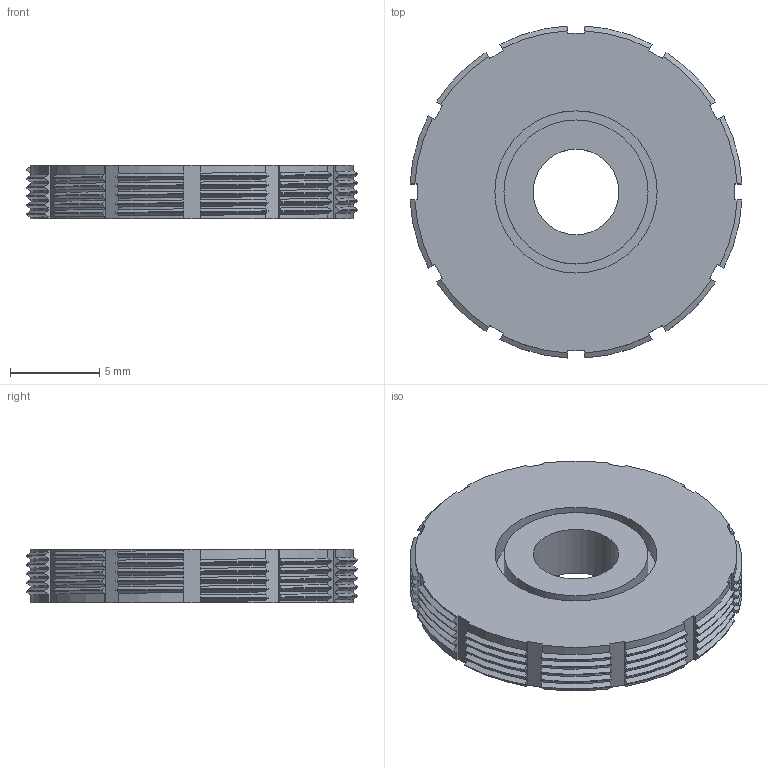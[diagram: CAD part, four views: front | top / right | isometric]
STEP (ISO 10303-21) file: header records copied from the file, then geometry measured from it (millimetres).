
FILE_DESCRIPTION(('Open CASCADE Model'),'2;1');
FILE_NAME('Open CASCADE Shape Model','2026-09-24T17:42:53',('Author'),( 'Open CASCADE'),'Open CASCADE STEP processor 7.8','Open CASCADE 7.8' ,'Unknown');
FILE_SCHEMA(('AUTOMOTIVE_DESIGN { 1 0 10303 214 1 1 1 1 }'));
Products named in the file (1): Open CASCADE STEP translator 7.8 49
Bounding box: 18.62 x 18.62 x 3 mm (x, y, z)
Volume: 706.2 mm3; surface area: 857.2 mm2
Topology: 1 solids, 1 shells, 299 faces, 879 edges, 586 vertices
Faces by surface type: bspline 180, cylinder 77, plane 42
Full cylindrical faces by diameter (mm): 1.3 x2, 4.8 x1, 8.08 x1, 9.1 x1
Entity records: 77638 total; most frequent: CARTESIAN_POINT 64477, B_SPLINE_CURVE_WITH_KNOTS 1992, ORIENTED_EDGE 1758, PCURVE 1758, DEFINITIONAL_REPRESENTATION 1758, DIRECTION 919, EDGE_CURVE 879, SURFACE_CURVE 874
